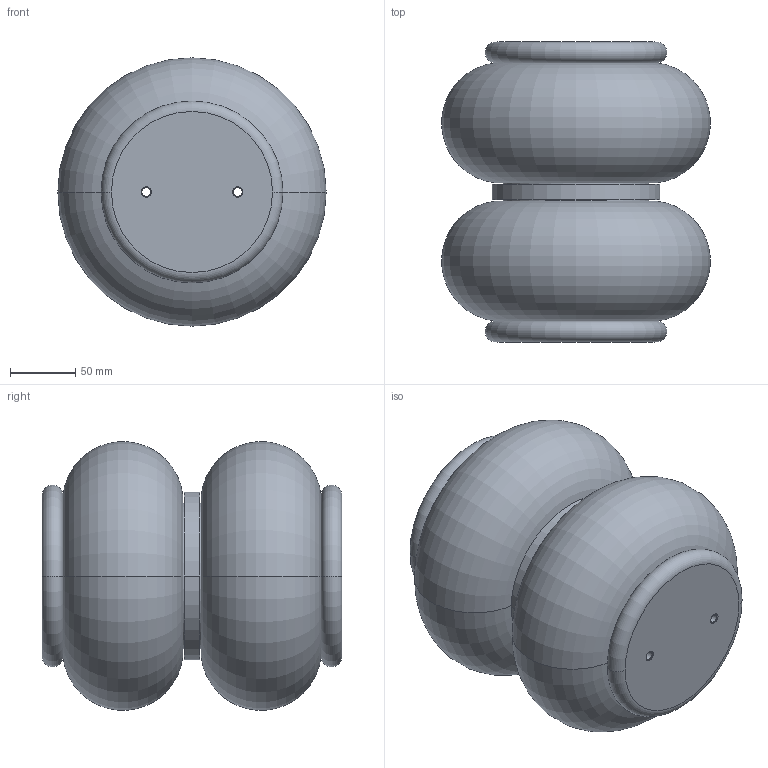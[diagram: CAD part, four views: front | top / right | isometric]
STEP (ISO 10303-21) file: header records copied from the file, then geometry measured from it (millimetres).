
FILE_DESCRIPTION((''),'2;1');
FILE_NAME('1922161000_MAX','2023-08-03T10:47:21',('VAU3HC'),(''),'CREO PARAMETRIC BY PTC INC, 2020044','CREO PARAMETRIC BY PTC INC, 2020044','');
FILE_SCHEMA(('CONFIG_CONTROL_DESIGN','SHAPE_APPEARANCE_LAYERS_GROUPS'));
Length unit declared in the file: millimetre
Products named in the file (1): 1922161000_MAX
Bounding box: 205.76 x 230 x 205.76 mm (x, y, z)
Volume: 4598517.5 mm3; surface area: 276583.4 mm2
Topology: 1 solids, 1 shells, 46 faces, 98 edges, 62 vertices
Faces by surface type: cylinder 18, plane 10, cone 10, torus 8
Entity records: 2202 total; most frequent: DIRECTION 260, CARTESIAN_POINT 206, ORIENTED_EDGE 196, PRESENTATION_STYLE_ASSIGNMENT 145, AXIS2_PLACEMENT_3D 116, STYLED_ITEM 99, CURVE_STYLE 98, EDGE_CURVE 98
